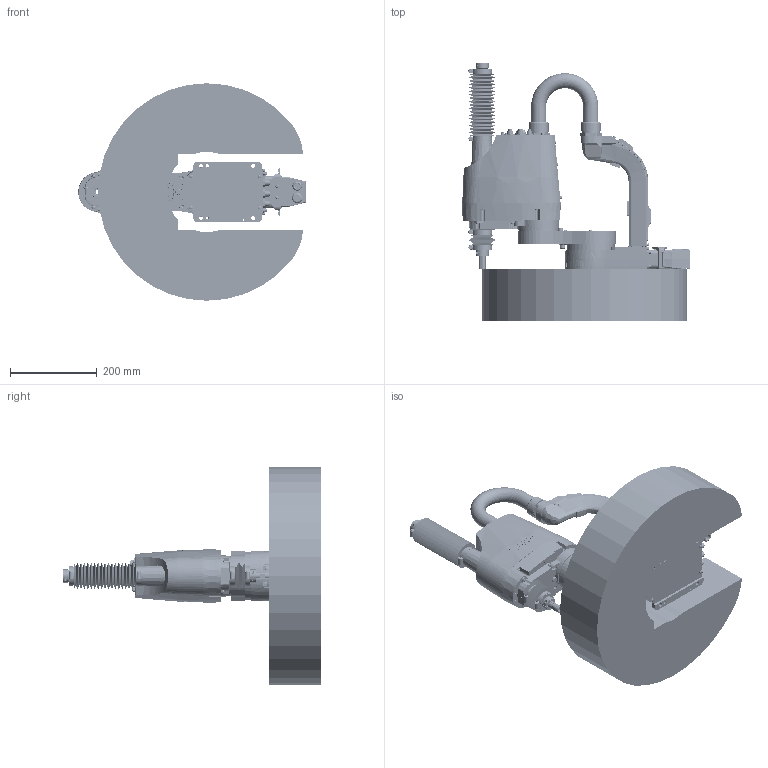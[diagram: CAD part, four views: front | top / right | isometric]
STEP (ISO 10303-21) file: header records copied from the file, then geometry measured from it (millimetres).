
FILE_DESCRIPTION( ( 'STEP AP214' ), '1' );
FILE_NAME( 'C:/Users/9607552/Desktop/GX4-A/GX4-A251CA-W.stp', '2023-04-07T04:37:33', ( '' ), ( '' ), ' ', 'PARTsolutions', ' ' );
FILE_SCHEMA( ( 'AUTOMOTIVE_DESIGN { 1 0 10303 214 1 1 1 1 }' ) );
Length unit declared in the file: millimetre
Products named in the file (10): GX4-A251CA-W; _A251C-b; _A251S_J1_ARM; _A251S-a; _A251S_CONDUIT; _A251C; _A251C-long; _A251C-short; _Angle; _GX4-22_WS
Assembly tree (9 placements, depth 2):
  GX4-A251CA-W
    _A251C-b
    _A251S_J1_ARM
    _A251S-a
    _A251S_CONDUIT
    _A251C
    _A251C-long
    _A251C-short
    _Angle
    _GX4-22_WS
Bounding box: 523.26 x 593.5 x 500 mm (x, y, z)
Volume: 25191380.6 mm3; surface area: 1412831.6 mm2
Topology: 9 solids, 9 shells, 4159 faces, 10152 edges, 6586 vertices
Faces by surface type: plane 2410, cylinder 1114, cone 418, torus 124, bspline 90, sphere 3
Full cylindrical faces by diameter (mm): 1 x30, 1.13 x55, 1.18 x55, 2.459 x4, 2.5 x18, 2.99 x1, 3 x47, 3.2 x3, 3.242 x1, 3.3 x41, 3.4 x32, 3.5 x12, 4 x5, 4.5 x16, 4.8 x8, 4.917 x2, 5.34 x8, 5.4 x14, 5.5 x26, 5.6 x4, 5.68 x4, 6 x21, 6.5 x12, 6.7 x4, 6.8 x4, 7 x44, 7.1 x4, 8 x16, 8.2 x8, 8.3 x4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
Entity records: 155967 total; most frequent: CARTESIAN_POINT 30178, DIRECTION 18369, ORIENTED_EDGE 18158, EDGE_CURVE 9079, AXIS2_PLACEMENT_3D 6987, VERTEX_POINT 6471, EDGE_LOOP 5727, FACE_OUTER_BOUND 4836
